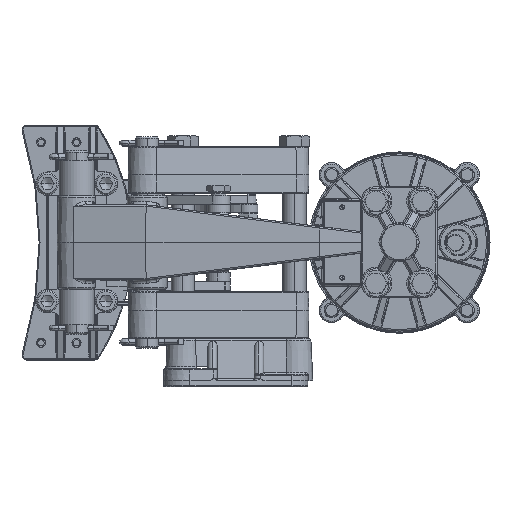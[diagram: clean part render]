
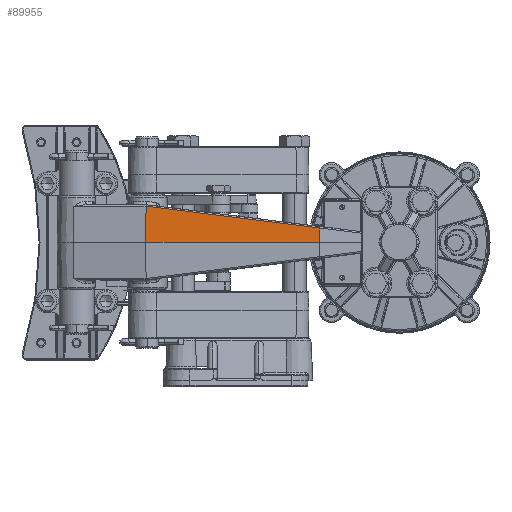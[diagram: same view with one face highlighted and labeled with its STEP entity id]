
A CAD part, top view. The second image highlights one B-rep face of the part: STEP entity #89955.
In plain terms, the highlighted planar face has unit normal (-0.005, 0.026, 1).
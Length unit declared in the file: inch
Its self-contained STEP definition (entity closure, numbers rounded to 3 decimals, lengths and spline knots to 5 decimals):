
#8647 = PLANE ( 'NONE',  #26559 ) ;
#16891 = VERTEX_POINT ( 'NONE', #25380 ) ;
#25380 = CARTESIAN_POINT ( 'NONE',  ( 0.27524, 0., 2.39952 ) ) ;
#26559 = AXIS2_PLACEMENT_3D ( 'NONE', #157462, #172577, #89444 ) ;
#30505 = EDGE_CURVE ( 'NONE', #51893, #132496, #63274, .T. ) ;
#30931 = EDGE_CURVE ( 'NONE', #16891, #34437, #128445, .T. ) ;
#32701 = EDGE_CURVE ( 'NONE', #132496, #34437, #161138, .T. ) ;
#34437 = VERTEX_POINT ( 'NONE', #145622 ) ;
#35945 = EDGE_LOOP ( 'NONE', ( #151094, #95213, #63810, #109512 ) ) ;
#43053 = VECTOR ( 'NONE', #108333, 39.37008 ) ;
#51893 = VERTEX_POINT ( 'NONE', #112619 ) ;
#52854 = CARTESIAN_POINT ( 'NONE',  ( 0.39191, 0.75494, 2.3803 ) ) ;
#56401 = VECTOR ( 'NONE', #158131, 39.37008 ) ;
#63274 = LINE ( 'NONE', #65040, #56401 ) ;
#63810 = ORIENTED_EDGE ( 'NONE', *, *, #30931, .F. ) ;
#65040 = CARTESIAN_POINT ( 'NONE',  ( 3.9752, 0.00472, 2.41687 ) ) ;
#73826 = CARTESIAN_POINT ( 'NONE',  ( 0.27525, 0.00023, 2.39951 ) ) ;
#85409 = VECTOR ( 'NONE', #158543, 39.37008 ) ;
#86389 = DIRECTION ( 'NONE',  ( 0.003, 1., -0.026 ) ) ;
#89444 = DIRECTION ( 'NONE',  ( -1., 0., -0.005 ) ) ;
#89668 = CARTESIAN_POINT ( 'NONE',  ( 0.29719, 0., 2.39962 ) ) ;
#89955 = ADVANCED_FACE ( 'NONE', ( #102904 ), #8647, .T. ) ;
#93727 = CARTESIAN_POINT ( 'NONE',  ( 3.97485, 0.30612, 2.40897 ) ) ;
#95213 = ORIENTED_EDGE ( 'NONE', *, *, #32701, .T. ) ;
#102904 = FACE_OUTER_BOUND ( 'NONE', #35945, .T. ) ;
#103127 = LINE ( 'NONE', #89668, #85409 ) ;
#108333 = DIRECTION ( 'NONE',  ( -0.992, 0.124, -0.008 ) ) ;
#109512 = ORIENTED_EDGE ( 'NONE', *, *, #148261, .F. ) ;
#112619 = CARTESIAN_POINT ( 'NONE',  ( 3.9752, 0., 2.41699 ) ) ;
#128445 = LINE ( 'NONE', #73826, #142369 ) ;
#132496 = VERTEX_POINT ( 'NONE', #93727 ) ;
#142369 = VECTOR ( 'NONE', #86389, 39.37008 ) ;
#145622 = CARTESIAN_POINT ( 'NONE',  ( 0.27719, 0.76931, 2.37938 ) ) ;
#148261 = EDGE_CURVE ( 'NONE', #51893, #16891, #103127, .T. ) ;
#151094 = ORIENTED_EDGE ( 'NONE', *, *, #30505, .T. ) ;
#157462 = CARTESIAN_POINT ( 'NONE',  ( 0.29719, 0., 2.39962 ) ) ;
#158131 = DIRECTION ( 'NONE',  ( -0.001, 1., -0.026 ) ) ;
#158543 = DIRECTION ( 'NONE',  ( -1., 0., -0.005 ) ) ;
#161138 = LINE ( 'NONE', #52854, #43053 ) ;
#172577 = DIRECTION ( 'NONE',  ( -0.005, 0.026, 1. ) ) ;
